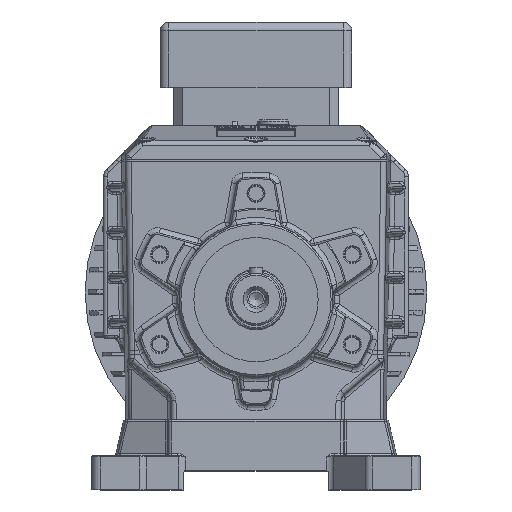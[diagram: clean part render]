
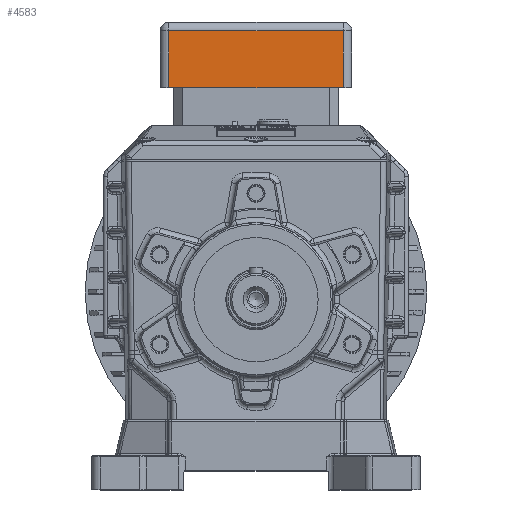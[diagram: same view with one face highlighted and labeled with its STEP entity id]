
A CAD part, top view. The second image highlights one B-rep face of the part: STEP entity #4583.
In plain terms, the highlighted planar face has unit normal (0, 0, 1).
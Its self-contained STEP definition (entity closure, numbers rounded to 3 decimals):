
#4583 = ADVANCED_FACE( '', ( #9756 ), #9757, .T. );
#9756 = FACE_OUTER_BOUND( '', #30330, .T. );
#9757 = PLANE( '', #30331 );
#30330 = EDGE_LOOP( '', ( #46058, #46059, #46060, #46061 ) );
#30331 = AXIS2_PLACEMENT_3D( '', #46062, #46063, #46064 );
#46058 = ORIENTED_EDGE( '', *, *, #52044, .T. );
#46059 = ORIENTED_EDGE( '', *, *, #50646, .T. );
#46060 = ORIENTED_EDGE( '', *, *, #52487, .T. );
#46061 = ORIENTED_EDGE( '', *, *, #52423, .T. );
#46062 = CARTESIAN_POINT( '', ( -55.5, 123.27, -264.9 ) );
#46063 = DIRECTION( '', ( 0., 0., 1. ) );
#46064 = DIRECTION( '', ( -1., 0., 0. ) );
#50646 = EDGE_CURVE( '', #57694, #57691, #57695, .T. );
#52044 = EDGE_CURVE( '', #59849, #57694, #59851, .T. );
#52423 = EDGE_CURVE( '', #60396, #59849, #60397, .T. );
#52487 = EDGE_CURVE( '', #57691, #60396, #60490, .T. );
#57691 = VERTEX_POINT( '', #68090 );
#57694 = VERTEX_POINT( '', #68093 );
#57695 = LINE( '', #68094, #68095 );
#59849 = VERTEX_POINT( '', #72045 );
#59851 = LINE( '', #72047, #72048 );
#60396 = VERTEX_POINT( '', #73067 );
#60397 = LINE( '', #73068, #73069 );
#60490 = LINE( '', #73356, #73357 );
#68090 = CARTESIAN_POINT( '', ( -50.5, 123.27, -264.9 ) );
#68093 = CARTESIAN_POINT( '', ( -50.5, 156.27, -264.9 ) );
#68094 = CARTESIAN_POINT( '', ( -50.5, 123.27, -264.9 ) );
#68095 = VECTOR( '', #81828, 1000. );
#72045 = CARTESIAN_POINT( '', ( 50.5, 156.27, -264.9 ) );
#72047 = CARTESIAN_POINT( '', ( -55.5, 156.27, -264.9 ) );
#72048 = VECTOR( '', #83538, 1000. );
#73067 = CARTESIAN_POINT( '', ( 50.5, 123.27, -264.9 ) );
#73068 = CARTESIAN_POINT( '', ( 50.5, 123.27, -264.9 ) );
#73069 = VECTOR( '', #83975, 1000. );
#73356 = CARTESIAN_POINT( '', ( -55.5, 123.27, -264.9 ) );
#73357 = VECTOR( '', #84054, 1000. );
#81828 = DIRECTION( '', ( 0., -1., 0. ) );
#83538 = DIRECTION( '', ( -1., 0., 0. ) );
#83975 = DIRECTION( '', ( 0., 1., 0. ) );
#84054 = DIRECTION( '', ( 1., 0., 0. ) );
